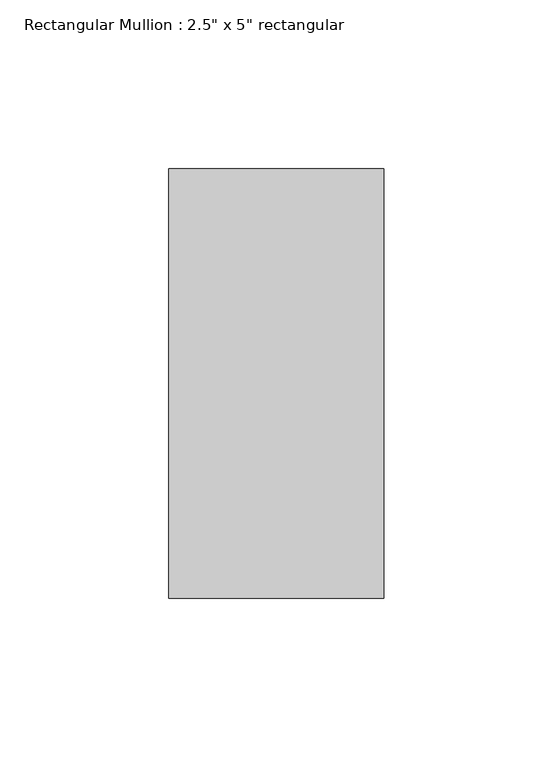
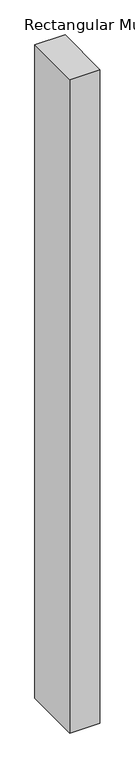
"""IFC4 building model written with IfcOpenShell, lengths in millimetres: member geometry."""

from ifc_helpers import new_model, si_unit, frame, origin, place, context, project, spatial, polyline, outline, extrude, source, transform, mapped, element, save


def member_894628af(model_context):
    return source(origin(), model_context, "Body", "SweptSolid", [
        extrude(outline(polyline([(31.75, 63.5), (31.75, -63.5), (-31.75, -63.5), (-31.75, 63.5), (31.75, 63.5)])), frame((0.0, 0.0, -1454.15), z_axis=(0.0, 0.0, 1.0), x_axis=(1.0, 0.0, 0.0)), (0.0, 0.0, 1.0), 1454.15),
    ])


if __name__ == "__main__":
    model = new_model("IFC4")
    model_context = context("Model", 3, world=origin())
    ifc_project = project(units=[si_unit("LENGTHUNIT", "METRE", prefix="MILLI")], contexts=[model_context])
    site = spatial("IfcSite", under=ifc_project)
    building = spatial("IfcBuilding", under=site)
    placement = place(None, origin())
    member_shape = member_894628af(model_context)
    element("IfcMember", 1, ObjectType="Rectangular Mullion : 2.5\" x 5\" rectangular", at=placement, inside=building, context=model_context, shape_type="MappedRepresentation", body=[
        mapped(member_shape, transform((0.0, 0.0, 0.0), x_axis=(1.0, 0.0, 0.0), y_axis=(0.0, 1.0, 0.0), z_axis=(0.0, 0.0, 1.0))),
    ])
    save(model, "model.ifc")
